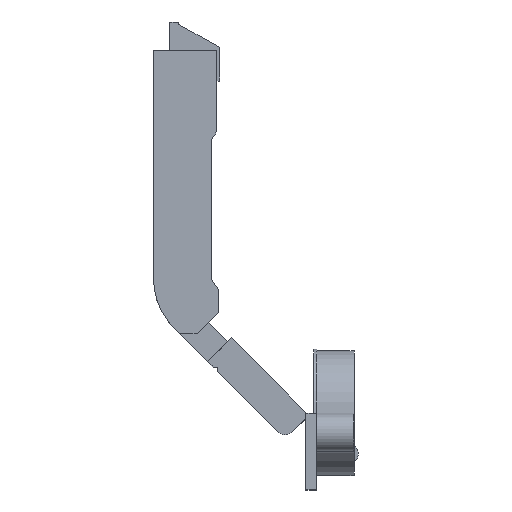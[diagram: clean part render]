
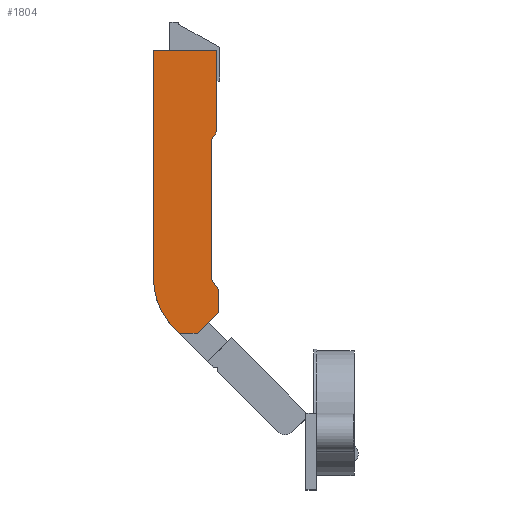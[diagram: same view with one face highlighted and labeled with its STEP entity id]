
A CAD part, top view. The second image highlights one B-rep face of the part: STEP entity #1804.
In plain terms, the highlighted planar face has unit normal (0, 0, 1).
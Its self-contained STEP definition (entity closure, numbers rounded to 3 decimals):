
#33 = EDGE_CURVE ( 'NONE', #460, #950, #2844, .T. ) ;
#48 = VECTOR ( 'NONE', #1760, 1000. ) ;
#50 = CARTESIAN_POINT ( 'NONE',  ( -6., 76.894, 9.15 ) ) ;
#73 = LINE ( 'NONE', #689, #2048 ) ;
#91 = AXIS2_PLACEMENT_3D ( 'NONE', #1204, #2972, #1603 ) ;
#202 = DIRECTION ( 'NONE',  ( -0.707, -0.707, 0. ) ) ;
#306 = EDGE_CURVE ( 'NONE', #950, #1852, #73, .T. ) ;
#397 = ORIENTED_EDGE ( 'NONE', *, *, #814, .F. ) ;
#433 = CARTESIAN_POINT ( 'NONE',  ( -9.992, 22.402, 9.15 ) ) ;
#444 = DIRECTION ( 'NONE',  ( 0.574, -0.819, 0. ) ) ;
#460 = VERTEX_POINT ( 'NONE', #1286 ) ;
#519 = CARTESIAN_POINT ( 'NONE',  ( -22.25, 37.994, 9.15 ) ) ;
#521 = VERTEX_POINT ( 'NONE', #2850 ) ;
#532 = FACE_OUTER_BOUND ( 'NONE', #2697, .T. ) ;
#572 = VECTOR ( 'NONE', #2356, 1000. ) ;
#583 = CARTESIAN_POINT ( 'NONE',  ( -9.992, 22.402, 9.15 ) ) ;
#595 = LINE ( 'NONE', #433, #617 ) ;
#617 = VECTOR ( 'NONE', #2045, 1000. ) ;
#654 = DIRECTION ( 'NONE',  ( -0.707, 0.707, 0. ) ) ;
#661 = VECTOR ( 'NONE', #444, 1000. ) ;
#675 = ORIENTED_EDGE ( 'NONE', *, *, #2454, .F. ) ;
#689 = CARTESIAN_POINT ( 'NONE',  ( -22.25, 101.894, 9.15 ) ) ;
#702 = DIRECTION ( 'NONE',  ( 1., 0., 0. ) ) ;
#722 = ORIENTED_EDGE ( 'NONE', *, *, #1301, .F. ) ;
#760 = VECTOR ( 'NONE', #1315, 1000. ) ;
#775 = VERTEX_POINT ( 'NONE', #1993 ) ;
#778 = CARTESIAN_POINT ( 'NONE',  ( -6., 76.894, 9.15 ) ) ;
#814 = EDGE_CURVE ( 'NONE', #775, #1735, #2614, .T. ) ;
#895 = LINE ( 'NONE', #1211, #1916 ) ;
#906 = DIRECTION ( 'NONE',  ( 0., -1., 0. ) ) ;
#950 = VERTEX_POINT ( 'NONE', #2243 ) ;
#953 = EDGE_CURVE ( 'NONE', #2263, #521, #2473, .T. ) ;
#987 = CARTESIAN_POINT ( 'NONE',  ( -4.01, 34.75, 9.15 ) ) ;
#1057 = ORIENTED_EDGE ( 'NONE', *, *, #2612, .F. ) ;
#1060 = VERTEX_POINT ( 'NONE', #583 ) ;
#1199 = VERTEX_POINT ( 'NONE', #778 ) ;
#1204 = CARTESIAN_POINT ( 'NONE',  ( -2.25, 37.994, 9.15 ) ) ;
#1211 = CARTESIAN_POINT ( 'NONE',  ( -6., 37.592, 9.15 ) ) ;
#1286 = CARTESIAN_POINT ( 'NONE',  ( -22.25, 37.994, 9.15 ) ) ;
#1301 = EDGE_CURVE ( 'NONE', #1735, #1060, #2366, .T. ) ;
#1315 = DIRECTION ( 'NONE',  ( -0.574, -0.819, 0. ) ) ;
#1320 = DIRECTION ( 'NONE',  ( 0., 0., -1. ) ) ;
#1337 = CARTESIAN_POINT ( 'NONE',  ( -4.01, 28.384, 9.15 ) ) ;
#1407 = DIRECTION ( 'NONE',  ( 0., -1., 0. ) ) ;
#1430 = VERTEX_POINT ( 'NONE', #2775 ) ;
#1494 = CARTESIAN_POINT ( 'NONE',  ( -14.942, 22.402, 9.15 ) ) ;
#1540 = ORIENTED_EDGE ( 'NONE', *, *, #953, .F. ) ;
#1603 = DIRECTION ( 'NONE',  ( 0., -1., 0. ) ) ;
#1649 = VERTEX_POINT ( 'NONE', #2033 ) ;
#1735 = VERTEX_POINT ( 'NONE', #2957 ) ;
#1760 = DIRECTION ( 'NONE',  ( 0., -1., 0. ) ) ;
#1765 = EDGE_CURVE ( 'NONE', #1060, #2263, #595, .T. ) ;
#1800 = EDGE_CURVE ( 'NONE', #1649, #775, #2257, .T. ) ;
#1804 = ADVANCED_FACE ( 'NONE', ( #532 ), #2552, .F. ) ;
#1848 = CARTESIAN_POINT ( 'NONE',  ( -4.01, 28.384, 9.15 ) ) ;
#1852 = VERTEX_POINT ( 'NONE', #2310 ) ;
#1916 = VECTOR ( 'NONE', #1407, 1000. ) ;
#1970 = ORIENTED_EDGE ( 'NONE', *, *, #2418, .F. ) ;
#1986 = ORIENTED_EDGE ( 'NONE', *, *, #33, .F. ) ;
#1993 = CARTESIAN_POINT ( 'NONE',  ( -4.01, 34.75, 9.15 ) ) ;
#2033 = CARTESIAN_POINT ( 'NONE',  ( -6., 37.592, 9.15 ) ) ;
#2045 = DIRECTION ( 'NONE',  ( -1., 0., 0. ) ) ;
#2048 = VECTOR ( 'NONE', #702, 1000. ) ;
#2052 = VECTOR ( 'NONE', #906, 1000. ) ;
#2117 = CIRCLE ( 'NONE', #3045, 20. ) ;
#2125 = LINE ( 'NONE', #50, #760 ) ;
#2163 = LINE ( 'NONE', #2471, #2052 ) ;
#2243 = CARTESIAN_POINT ( 'NONE',  ( -22.25, 101.894, 9.15 ) ) ;
#2257 = LINE ( 'NONE', #987, #661 ) ;
#2263 = VERTEX_POINT ( 'NONE', #1494 ) ;
#2267 = ORIENTED_EDGE ( 'NONE', *, *, #306, .F. ) ;
#2310 = CARTESIAN_POINT ( 'NONE',  ( -4.5, 101.894, 9.15 ) ) ;
#2356 = DIRECTION ( 'NONE',  ( 0., 1., 0. ) ) ;
#2366 = LINE ( 'NONE', #1848, #2591 ) ;
#2418 = EDGE_CURVE ( 'NONE', #1430, #1199, #2125, .T. ) ;
#2454 = EDGE_CURVE ( 'NONE', #521, #460, #2117, .T. ) ;
#2469 = VECTOR ( 'NONE', #654, 1000. ) ;
#2471 = CARTESIAN_POINT ( 'NONE',  ( -4.5, 79.036, 9.15 ) ) ;
#2473 = LINE ( 'NONE', #2931, #2469 ) ;
#2552 = PLANE ( 'NONE',  #91 ) ;
#2576 = ORIENTED_EDGE ( 'NONE', *, *, #1765, .F. ) ;
#2591 = VECTOR ( 'NONE', #202, 1000. ) ;
#2612 = EDGE_CURVE ( 'NONE', #1852, #1430, #2163, .T. ) ;
#2614 = LINE ( 'NONE', #1337, #48 ) ;
#2692 = CARTESIAN_POINT ( 'NONE',  ( -2.25, 37.994, 9.15 ) ) ;
#2697 = EDGE_LOOP ( 'NONE', ( #1540, #2576, #722, #397, #2956, #2812, #1970, #1057, #2267, #1986, #675 ) ) ;
#2775 = CARTESIAN_POINT ( 'NONE',  ( -4.5, 79.036, 9.15 ) ) ;
#2793 = EDGE_CURVE ( 'NONE', #1199, #1649, #895, .T. ) ;
#2812 = ORIENTED_EDGE ( 'NONE', *, *, #2793, .F. ) ;
#2844 = LINE ( 'NONE', #519, #572 ) ;
#2850 = CARTESIAN_POINT ( 'NONE',  ( -16.392, 23.852, 9.15 ) ) ;
#2886 = DIRECTION ( 'NONE',  ( 0., -1., 0. ) ) ;
#2931 = CARTESIAN_POINT ( 'NONE',  ( -5.502, 12.962, 9.15 ) ) ;
#2956 = ORIENTED_EDGE ( 'NONE', *, *, #1800, .F. ) ;
#2957 = CARTESIAN_POINT ( 'NONE',  ( -4.01, 28.384, 9.15 ) ) ;
#2972 = DIRECTION ( 'NONE',  ( 0., 0., -1. ) ) ;
#3045 = AXIS2_PLACEMENT_3D ( 'NONE', #2692, #1320, #2886 ) ;
